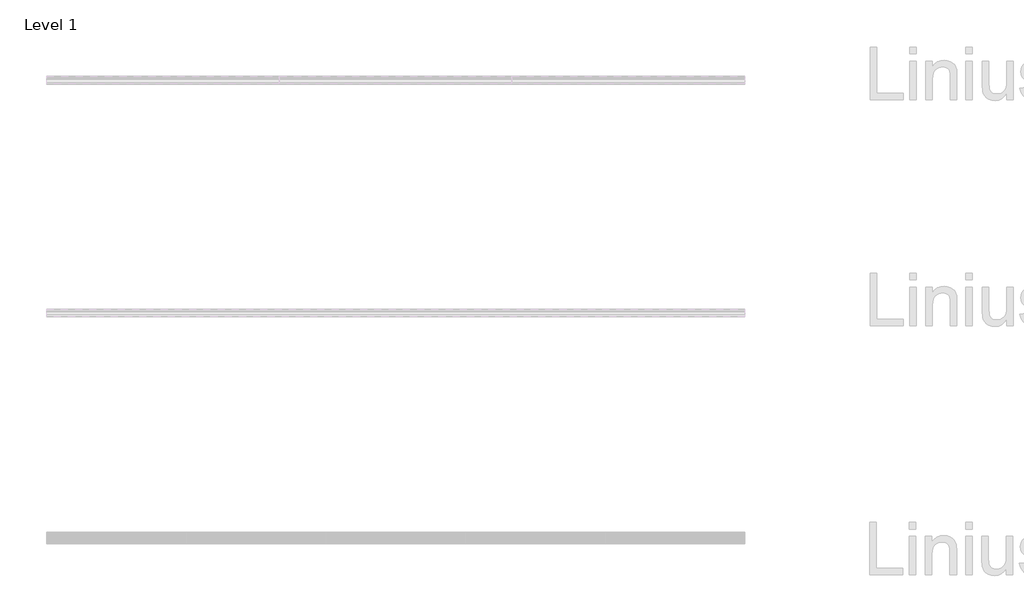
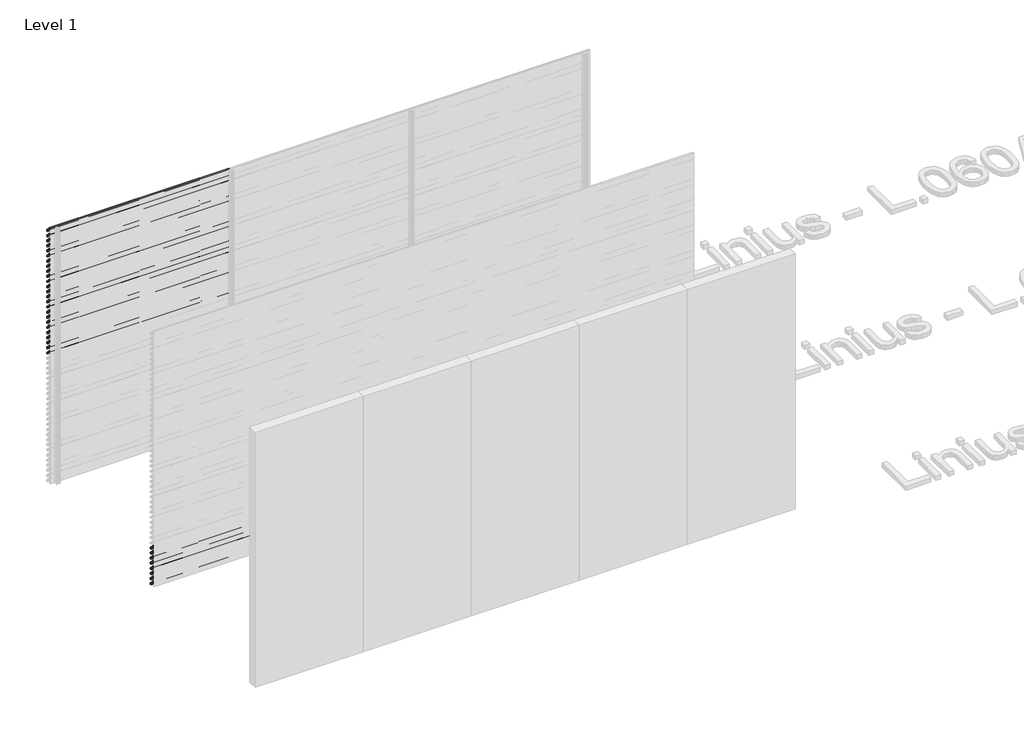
# One storey, part 114 of 153: 33 proxies.
"""IFC4 building model written with IfcOpenShell, lengths in millimetres."""

from ifc_helpers import new_model, si_unit, point, frame, frame_2d, origin, place, context, project, spatial, polyline, circle_curve, trimmed, segment, composite_curve, outline, extrude, element, save

model = new_model("IFC4")

# Units and contexts
model_context = context("Model", 3, world=origin())
ifc_project = project(units=[si_unit("LENGTHUNIT", "METRE", prefix="MILLI")], contexts=[model_context])

# Site, building, storey
site = spatial("IfcSite", under=ifc_project)
building = spatial("IfcBuilding", under=site)
storey = spatial("IfcBuildingStorey", under=building, Name="Level 1", Elevation=0.0)

# Proxies
placement = place(None, origin())
element("IfcBuildingElementProxy", 1, Name="Wall Sweeps", at=placement, inside=storey, context=model_context, shape_type="SweptSolid", body=[
    extrude(outline(composite_curve([segment(polyline([(58985.0540136, 3000.0), (58999.874191, 2998.7034025), (59049.0540136, 2945.0102749), (59049.0540136, 2933.6108187)]), True, "CONTINUOUS"), segment(trimmed(circle_curve(frame_2d((59045.7883652, 2933.897153)), 3.2781774), [point((59049.0540136, 2933.6108187))], [point((59046.4639442, 2930.6893438))], False, "CARTESIAN"), True, "CONTINUOUS"), segment(polyline([(59046.4639442, 2930.6893438), (59034.1895723, 2931.6282758), (58985.0540136, 2985.2730773), (58985.0540136, 3000.0)]), True, "CONTINUOUS")], self_intersect=False), holes=[composite_curve([segment(polyline([(58999.1621773, 2997.2599659), (58986.5540136, 2998.3630372), (58986.5540136, 2985.856213), (59034.8952036, 2933.0786805), (59046.3312542, 2932.2038762)]), True, "CONTINUOUS"), segment(trimmed(circle_curve(frame_2d((59045.7883652, 2933.897153)), 1.7781774), [point((59046.3312542, 2932.2038762))], [point((59047.5540136, 2933.6864389))], True, "CARTESIAN"), True, "CONTINUOUS"), segment(polyline([(59047.5540136, 2933.6864389), (59047.5540136, 2944.4271392), (58999.1621773, 2997.2599659)]), True, "CONTINUOUS")], self_intersect=False)]), frame((44966.6208097, 0.0, 0.0), z_axis=(1.0, 0.0, 0.0), x_axis=(0.0, 1.0, 0.0)), (0.0, 0.0, 1.0), 2000.0000001),
])
element("IfcBuildingElementProxy", 2, Name="Wall Sweeps", at=placement, inside=storey, context=model_context, shape_type="SweptSolid", body=[
    extrude(outline(composite_curve([segment(polyline([(58985.0540136, 2940.0), (58999.874191, 2938.7034025), (59049.0540136, 2885.0102749), (59049.0540136, 2873.6108187)]), True, "CONTINUOUS"), segment(trimmed(circle_curve(frame_2d((59045.7883652, 2873.897153)), 3.2781774), [point((59049.0540136, 2873.6108187))], [point((59046.4639442, 2870.6893438))], False, "CARTESIAN"), True, "CONTINUOUS"), segment(polyline([(59046.4639442, 2870.6893438), (59034.1895723, 2871.6282758), (58985.0540136, 2925.2730773), (58985.0540136, 2940.0)]), True, "CONTINUOUS")], self_intersect=False), holes=[composite_curve([segment(polyline([(58999.1621773, 2937.2599659), (58986.5540136, 2938.3630372), (58986.5540136, 2925.856213), (59034.8952036, 2873.0786805), (59046.3312542, 2872.2038762)]), True, "CONTINUOUS"), segment(trimmed(circle_curve(frame_2d((59045.7883652, 2873.897153)), 1.7781774), [point((59046.3312542, 2872.2038762))], [point((59047.5540136, 2873.6864389))], True, "CARTESIAN"), True, "CONTINUOUS"), segment(polyline([(59047.5540136, 2873.6864389), (59047.5540136, 2884.4271392), (58999.1621773, 2937.2599659)]), True, "CONTINUOUS")], self_intersect=False)]), frame((44966.6208097, 0.0, 0.0), z_axis=(1.0, 0.0, 0.0), x_axis=(0.0, 1.0, 0.0)), (0.0, 0.0, 1.0), 2000.0000001),
])
element("IfcBuildingElementProxy", 3, Name="Wall Sweeps", at=placement, inside=storey, context=model_context, shape_type="SweptSolid", body=[
    extrude(outline(composite_curve([segment(polyline([(58985.0540136, 2880.0), (58999.874191, 2878.7034025), (59049.0540136, 2825.0102749), (59049.0540136, 2813.6108187)]), True, "CONTINUOUS"), segment(trimmed(circle_curve(frame_2d((59045.7883652, 2813.897153)), 3.2781774), [point((59049.0540136, 2813.6108187))], [point((59046.4639442, 2810.6893438))], False, "CARTESIAN"), True, "CONTINUOUS"), segment(polyline([(59046.4639442, 2810.6893438), (59034.1895723, 2811.6282758), (58985.0540136, 2865.2730773), (58985.0540136, 2880.0)]), True, "CONTINUOUS")], self_intersect=False), holes=[composite_curve([segment(polyline([(58999.1621773, 2877.2599659), (58986.5540136, 2878.3630372), (58986.5540136, 2865.856213), (59034.8952036, 2813.0786805), (59046.3312542, 2812.2038762)]), True, "CONTINUOUS"), segment(trimmed(circle_curve(frame_2d((59045.7883652, 2813.897153)), 1.7781774), [point((59046.3312542, 2812.2038762))], [point((59047.5540136, 2813.6864389))], True, "CARTESIAN"), True, "CONTINUOUS"), segment(polyline([(59047.5540136, 2813.6864389), (59047.5540136, 2824.4271392), (58999.1621773, 2877.2599659)]), True, "CONTINUOUS")], self_intersect=False)]), frame((44966.6208097, 0.0, 0.0), z_axis=(1.0, 0.0, 0.0), x_axis=(0.0, 1.0, 0.0)), (0.0, 0.0, 1.0), 2000.0000001),
])
element("IfcBuildingElementProxy", 4, Name="Wall Sweeps", at=placement, inside=storey, context=model_context, shape_type="SweptSolid", body=[
    extrude(outline(composite_curve([segment(polyline([(58985.0540136, 2820.0), (58999.874191, 2818.7034025), (59049.0540136, 2765.0102749), (59049.0540136, 2753.6108187)]), True, "CONTINUOUS"), segment(trimmed(circle_curve(frame_2d((59045.7883652, 2753.897153)), 3.2781774), [point((59049.0540136, 2753.6108187))], [point((59046.4639442, 2750.6893438))], False, "CARTESIAN"), True, "CONTINUOUS"), segment(polyline([(59046.4639442, 2750.6893438), (59034.1895723, 2751.6282758), (58985.0540136, 2805.2730773), (58985.0540136, 2820.0)]), True, "CONTINUOUS")], self_intersect=False), holes=[composite_curve([segment(polyline([(58999.1621773, 2817.2599659), (58986.5540136, 2818.3630372), (58986.5540136, 2805.856213), (59034.8952036, 2753.0786805), (59046.3312542, 2752.2038762)]), True, "CONTINUOUS"), segment(trimmed(circle_curve(frame_2d((59045.7883652, 2753.897153)), 1.7781774), [point((59046.3312542, 2752.2038762))], [point((59047.5540136, 2753.6864389))], True, "CARTESIAN"), True, "CONTINUOUS"), segment(polyline([(59047.5540136, 2753.6864389), (59047.5540136, 2764.4271392), (58999.1621773, 2817.2599659)]), True, "CONTINUOUS")], self_intersect=False)]), frame((44966.6208097, 0.0, 0.0), z_axis=(1.0, 0.0, 0.0), x_axis=(0.0, 1.0, 0.0)), (0.0, 0.0, 1.0), 2000.0000001),
])
element("IfcBuildingElementProxy", 5, Name="Wall Sweeps", at=placement, inside=storey, context=model_context, shape_type="SweptSolid", body=[
    extrude(outline(composite_curve([segment(polyline([(58985.0540136, 2760.0), (58999.874191, 2758.7034025), (59049.0540136, 2705.0102749), (59049.0540136, 2693.6108187)]), True, "CONTINUOUS"), segment(trimmed(circle_curve(frame_2d((59045.7883652, 2693.897153)), 3.2781774), [point((59049.0540136, 2693.6108187))], [point((59046.4639442, 2690.6893438))], False, "CARTESIAN"), True, "CONTINUOUS"), segment(polyline([(59046.4639442, 2690.6893438), (59034.1895723, 2691.6282758), (58985.0540136, 2745.2730773), (58985.0540136, 2760.0)]), True, "CONTINUOUS")], self_intersect=False), holes=[composite_curve([segment(polyline([(58999.1621773, 2757.2599659), (58986.5540136, 2758.3630372), (58986.5540136, 2745.856213), (59034.8952036, 2693.0786805), (59046.3312542, 2692.2038762)]), True, "CONTINUOUS"), segment(trimmed(circle_curve(frame_2d((59045.7883652, 2693.897153)), 1.7781774), [point((59046.3312542, 2692.2038762))], [point((59047.5540136, 2693.6864389))], True, "CARTESIAN"), True, "CONTINUOUS"), segment(polyline([(59047.5540136, 2693.6864389), (59047.5540136, 2704.4271392), (58999.1621773, 2757.2599659)]), True, "CONTINUOUS")], self_intersect=False)]), frame((44966.6208097, 0.0, 0.0), z_axis=(1.0, 0.0, 0.0), x_axis=(0.0, 1.0, 0.0)), (0.0, 0.0, 1.0), 2000.0000001),
])
element("IfcBuildingElementProxy", 6, Name="Wall Sweeps", at=placement, inside=storey, context=model_context, shape_type="SweptSolid", body=[
    extrude(outline(composite_curve([segment(polyline([(58985.0540136, 2700.0), (58999.874191, 2698.7034025), (59049.0540136, 2645.0102749), (59049.0540136, 2633.6108187)]), True, "CONTINUOUS"), segment(trimmed(circle_curve(frame_2d((59045.7883652, 2633.897153)), 3.2781774), [point((59049.0540136, 2633.6108187))], [point((59046.4639442, 2630.6893438))], False, "CARTESIAN"), True, "CONTINUOUS"), segment(polyline([(59046.4639442, 2630.6893438), (59034.1895723, 2631.6282758), (58985.0540136, 2685.2730773), (58985.0540136, 2700.0)]), True, "CONTINUOUS")], self_intersect=False), holes=[composite_curve([segment(polyline([(58999.1621773, 2697.2599659), (58986.5540136, 2698.3630372), (58986.5540136, 2685.856213), (59034.8952036, 2633.0786805), (59046.3312542, 2632.2038762)]), True, "CONTINUOUS"), segment(trimmed(circle_curve(frame_2d((59045.7883652, 2633.897153)), 1.7781774), [point((59046.3312542, 2632.2038762))], [point((59047.5540136, 2633.6864389))], True, "CARTESIAN"), True, "CONTINUOUS"), segment(polyline([(59047.5540136, 2633.6864389), (59047.5540136, 2644.4271392), (58999.1621773, 2697.2599659)]), True, "CONTINUOUS")], self_intersect=False)]), frame((44966.6208097, 0.0, 0.0), z_axis=(1.0, 0.0, 0.0), x_axis=(0.0, 1.0, 0.0)), (0.0, 0.0, 1.0), 2000.0000001),
])
element("IfcBuildingElementProxy", 7, Name="Wall Sweeps", at=placement, inside=storey, context=model_context, shape_type="SweptSolid", body=[
    extrude(outline(composite_curve([segment(polyline([(58985.0540136, 2640.0), (58999.874191, 2638.7034025), (59049.0540136, 2585.0102749), (59049.0540136, 2573.6108187)]), True, "CONTINUOUS"), segment(trimmed(circle_curve(frame_2d((59045.7883652, 2573.897153)), 3.2781774), [point((59049.0540136, 2573.6108187))], [point((59046.4639442, 2570.6893438))], False, "CARTESIAN"), True, "CONTINUOUS"), segment(polyline([(59046.4639442, 2570.6893438), (59034.1895723, 2571.6282758), (58985.0540136, 2625.2730773), (58985.0540136, 2640.0)]), True, "CONTINUOUS")], self_intersect=False), holes=[composite_curve([segment(polyline([(58999.1621773, 2637.2599659), (58986.5540136, 2638.3630372), (58986.5540136, 2625.856213), (59034.8952036, 2573.0786805), (59046.3312542, 2572.2038762)]), True, "CONTINUOUS"), segment(trimmed(circle_curve(frame_2d((59045.7883652, 2573.897153)), 1.7781774), [point((59046.3312542, 2572.2038762))], [point((59047.5540136, 2573.6864389))], True, "CARTESIAN"), True, "CONTINUOUS"), segment(polyline([(59047.5540136, 2573.6864389), (59047.5540136, 2584.4271392), (58999.1621773, 2637.2599659)]), True, "CONTINUOUS")], self_intersect=False)]), frame((44966.6208097, 0.0, 0.0), z_axis=(1.0, 0.0, 0.0), x_axis=(0.0, 1.0, 0.0)), (0.0, 0.0, 1.0), 2000.0000001),
])
element("IfcBuildingElementProxy", 8, Name="Wall Sweeps", at=placement, inside=storey, context=model_context, shape_type="SweptSolid", body=[
    extrude(outline(composite_curve([segment(polyline([(58985.0540136, 2580.0), (58999.874191, 2578.7034025), (59049.0540136, 2525.0102749), (59049.0540136, 2513.6108187)]), True, "CONTINUOUS"), segment(trimmed(circle_curve(frame_2d((59045.7883652, 2513.897153)), 3.2781774), [point((59049.0540136, 2513.6108187))], [point((59046.4639442, 2510.6893438))], False, "CARTESIAN"), True, "CONTINUOUS"), segment(polyline([(59046.4639442, 2510.6893438), (59034.1895723, 2511.6282758), (58985.0540136, 2565.2730773), (58985.0540136, 2580.0)]), True, "CONTINUOUS")], self_intersect=False), holes=[composite_curve([segment(polyline([(58999.1621773, 2577.2599659), (58986.5540136, 2578.3630372), (58986.5540136, 2565.856213), (59034.8952036, 2513.0786805), (59046.3312542, 2512.2038762)]), True, "CONTINUOUS"), segment(trimmed(circle_curve(frame_2d((59045.7883652, 2513.897153)), 1.7781774), [point((59046.3312542, 2512.2038762))], [point((59047.5540136, 2513.6864389))], True, "CARTESIAN"), True, "CONTINUOUS"), segment(polyline([(59047.5540136, 2513.6864389), (59047.5540136, 2524.4271392), (58999.1621773, 2577.2599659)]), True, "CONTINUOUS")], self_intersect=False)]), frame((44966.6208097, 0.0, 0.0), z_axis=(1.0, 0.0, 0.0), x_axis=(0.0, 1.0, 0.0)), (0.0, 0.0, 1.0), 2000.0000001),
])
element("IfcBuildingElementProxy", 9, Name="Wall Sweeps", at=placement, inside=storey, context=model_context, shape_type="SweptSolid", body=[
    extrude(outline(composite_curve([segment(polyline([(58985.0540136, 2520.0), (58999.874191, 2518.7034025), (59049.0540136, 2465.0102749), (59049.0540136, 2453.6108187)]), True, "CONTINUOUS"), segment(trimmed(circle_curve(frame_2d((59045.7883652, 2453.897153)), 3.2781774), [point((59049.0540136, 2453.6108187))], [point((59046.4639442, 2450.6893438))], False, "CARTESIAN"), True, "CONTINUOUS"), segment(polyline([(59046.4639442, 2450.6893438), (59034.1895723, 2451.6282758), (58985.0540136, 2505.2730773), (58985.0540136, 2520.0)]), True, "CONTINUOUS")], self_intersect=False), holes=[composite_curve([segment(polyline([(58999.1621773, 2517.2599659), (58986.5540136, 2518.3630372), (58986.5540136, 2505.856213), (59034.8952036, 2453.0786805), (59046.3312542, 2452.2038762)]), True, "CONTINUOUS"), segment(trimmed(circle_curve(frame_2d((59045.7883652, 2453.897153)), 1.7781774), [point((59046.3312542, 2452.2038762))], [point((59047.5540136, 2453.6864389))], True, "CARTESIAN"), True, "CONTINUOUS"), segment(polyline([(59047.5540136, 2453.6864389), (59047.5540136, 2464.4271392), (58999.1621773, 2517.2599659)]), True, "CONTINUOUS")], self_intersect=False)]), frame((44966.6208097, 0.0, 0.0), z_axis=(1.0, 0.0, 0.0), x_axis=(0.0, 1.0, 0.0)), (0.0, 0.0, 1.0), 2000.0000001),
])
element("IfcBuildingElementProxy", 10, Name="Wall Sweeps", at=placement, inside=storey, context=model_context, shape_type="SweptSolid", body=[
    extrude(outline(composite_curve([segment(polyline([(58985.0540136, 2460.0), (58999.874191, 2458.7034025), (59049.0540136, 2405.0102749), (59049.0540136, 2393.6108187)]), True, "CONTINUOUS"), segment(trimmed(circle_curve(frame_2d((59045.7883652, 2393.897153)), 3.2781774), [point((59049.0540136, 2393.6108187))], [point((59046.4639442, 2390.6893438))], False, "CARTESIAN"), True, "CONTINUOUS"), segment(polyline([(59046.4639442, 2390.6893438), (59034.1895723, 2391.6282758), (58985.0540136, 2445.2730773), (58985.0540136, 2460.0)]), True, "CONTINUOUS")], self_intersect=False), holes=[composite_curve([segment(polyline([(58999.1621773, 2457.2599659), (58986.5540136, 2458.3630372), (58986.5540136, 2445.856213), (59034.8952036, 2393.0786805), (59046.3312542, 2392.2038762)]), True, "CONTINUOUS"), segment(trimmed(circle_curve(frame_2d((59045.7883652, 2393.897153)), 1.7781774), [point((59046.3312542, 2392.2038762))], [point((59047.5540136, 2393.6864389))], True, "CARTESIAN"), True, "CONTINUOUS"), segment(polyline([(59047.5540136, 2393.6864389), (59047.5540136, 2404.4271392), (58999.1621773, 2457.2599659)]), True, "CONTINUOUS")], self_intersect=False)]), frame((44966.6208097, 0.0, 0.0), z_axis=(1.0, 0.0, 0.0), x_axis=(0.0, 1.0, 0.0)), (0.0, 0.0, 1.0), 2000.0000001),
])
element("IfcBuildingElementProxy", 11, Name="Wall Sweeps", at=placement, inside=storey, context=model_context, shape_type="SweptSolid", body=[
    extrude(outline(composite_curve([segment(polyline([(58985.0540136, 2400.0), (58999.874191, 2398.7034025), (59049.0540136, 2345.0102749), (59049.0540136, 2333.6108187)]), True, "CONTINUOUS"), segment(trimmed(circle_curve(frame_2d((59045.7883652, 2333.897153)), 3.2781774), [point((59049.0540136, 2333.6108187))], [point((59046.4639442, 2330.6893438))], False, "CARTESIAN"), True, "CONTINUOUS"), segment(polyline([(59046.4639442, 2330.6893438), (59034.1895723, 2331.6282758), (58985.0540136, 2385.2730773), (58985.0540136, 2400.0)]), True, "CONTINUOUS")], self_intersect=False), holes=[composite_curve([segment(polyline([(58999.1621773, 2397.2599659), (58986.5540136, 2398.3630372), (58986.5540136, 2385.856213), (59034.8952036, 2333.0786805), (59046.3312542, 2332.2038762)]), True, "CONTINUOUS"), segment(trimmed(circle_curve(frame_2d((59045.7883652, 2333.897153)), 1.7781774), [point((59046.3312542, 2332.2038762))], [point((59047.5540136, 2333.6864389))], True, "CARTESIAN"), True, "CONTINUOUS"), segment(polyline([(59047.5540136, 2333.6864389), (59047.5540136, 2344.4271392), (58999.1621773, 2397.2599659)]), True, "CONTINUOUS")], self_intersect=False)]), frame((44966.6208097, 0.0, 0.0), z_axis=(1.0, 0.0, 0.0), x_axis=(0.0, 1.0, 0.0)), (0.0, 0.0, 1.0), 2000.0000001),
])
element("IfcBuildingElementProxy", 12, Name="Wall Sweeps", at=placement, inside=storey, context=model_context, shape_type="SweptSolid", body=[
    extrude(outline(composite_curve([segment(polyline([(58985.0540136, 2340.0), (58999.874191, 2338.7034025), (59049.0540136, 2285.0102749), (59049.0540136, 2273.6108187)]), True, "CONTINUOUS"), segment(trimmed(circle_curve(frame_2d((59045.7883652, 2273.897153)), 3.2781774), [point((59049.0540136, 2273.6108187))], [point((59046.4639442, 2270.6893438))], False, "CARTESIAN"), True, "CONTINUOUS"), segment(polyline([(59046.4639442, 2270.6893438), (59034.1895723, 2271.6282758), (58985.0540136, 2325.2730773), (58985.0540136, 2340.0)]), True, "CONTINUOUS")], self_intersect=False), holes=[composite_curve([segment(polyline([(58999.1621773, 2337.2599659), (58986.5540136, 2338.3630372), (58986.5540136, 2325.856213), (59034.8952036, 2273.0786805), (59046.3312542, 2272.2038762)]), True, "CONTINUOUS"), segment(trimmed(circle_curve(frame_2d((59045.7883652, 2273.897153)), 1.7781774), [point((59046.3312542, 2272.2038762))], [point((59047.5540136, 2273.6864389))], True, "CARTESIAN"), True, "CONTINUOUS"), segment(polyline([(59047.5540136, 2273.6864389), (59047.5540136, 2284.4271392), (58999.1621773, 2337.2599659)]), True, "CONTINUOUS")], self_intersect=False)]), frame((44966.6208097, 0.0, 0.0), z_axis=(1.0, 0.0, 0.0), x_axis=(0.0, 1.0, 0.0)), (0.0, 0.0, 1.0), 2000.0000001),
])
element("IfcBuildingElementProxy", 13, Name="Wall Sweeps", at=placement, inside=storey, context=model_context, shape_type="SweptSolid", body=[
    extrude(outline(composite_curve([segment(polyline([(58985.0540136, 2280.0), (58999.874191, 2278.7034025), (59049.0540136, 2225.0102749), (59049.0540136, 2213.6108187)]), True, "CONTINUOUS"), segment(trimmed(circle_curve(frame_2d((59045.7883652, 2213.897153)), 3.2781774), [point((59049.0540136, 2213.6108187))], [point((59046.4639442, 2210.6893438))], False, "CARTESIAN"), True, "CONTINUOUS"), segment(polyline([(59046.4639442, 2210.6893438), (59034.1895723, 2211.6282758), (58985.0540136, 2265.2730773), (58985.0540136, 2280.0)]), True, "CONTINUOUS")], self_intersect=False), holes=[composite_curve([segment(polyline([(58999.1621773, 2277.2599659), (58986.5540136, 2278.3630372), (58986.5540136, 2265.856213), (59034.8952036, 2213.0786805), (59046.3312542, 2212.2038762)]), True, "CONTINUOUS"), segment(trimmed(circle_curve(frame_2d((59045.7883652, 2213.897153)), 1.7781774), [point((59046.3312542, 2212.2038762))], [point((59047.5540136, 2213.6864389))], True, "CARTESIAN"), True, "CONTINUOUS"), segment(polyline([(59047.5540136, 2213.6864389), (59047.5540136, 2224.4271392), (58999.1621773, 2277.2599659)]), True, "CONTINUOUS")], self_intersect=False)]), frame((44966.6208097, 0.0, 0.0), z_axis=(1.0, 0.0, 0.0), x_axis=(0.0, 1.0, 0.0)), (0.0, 0.0, 1.0), 2000.0000001),
])
element("IfcBuildingElementProxy", 14, Name="Wall Sweeps", at=placement, inside=storey, context=model_context, shape_type="SweptSolid", body=[
    extrude(outline(composite_curve([segment(polyline([(58985.0540136, 2220.0), (58999.874191, 2218.7034025), (59049.0540136, 2165.0102749), (59049.0540136, 2153.6108187)]), True, "CONTINUOUS"), segment(trimmed(circle_curve(frame_2d((59045.7883652, 2153.897153)), 3.2781774), [point((59049.0540136, 2153.6108187))], [point((59046.4639442, 2150.6893438))], False, "CARTESIAN"), True, "CONTINUOUS"), segment(polyline([(59046.4639442, 2150.6893438), (59034.1895723, 2151.6282758), (58985.0540136, 2205.2730773), (58985.0540136, 2220.0)]), True, "CONTINUOUS")], self_intersect=False), holes=[composite_curve([segment(polyline([(58999.1621773, 2217.2599659), (58986.5540136, 2218.3630372), (58986.5540136, 2205.856213), (59034.8952036, 2153.0786805), (59046.3312542, 2152.2038762)]), True, "CONTINUOUS"), segment(trimmed(circle_curve(frame_2d((59045.7883652, 2153.897153)), 1.7781774), [point((59046.3312542, 2152.2038762))], [point((59047.5540136, 2153.6864389))], True, "CARTESIAN"), True, "CONTINUOUS"), segment(polyline([(59047.5540136, 2153.6864389), (59047.5540136, 2164.4271392), (58999.1621773, 2217.2599659)]), True, "CONTINUOUS")], self_intersect=False)]), frame((44966.6208097, 0.0, 0.0), z_axis=(1.0, 0.0, 0.0), x_axis=(0.0, 1.0, 0.0)), (0.0, 0.0, 1.0), 2000.0000001),
])
element("IfcBuildingElementProxy", 15, Name="Wall Sweeps", at=placement, inside=storey, context=model_context, shape_type="SweptSolid", body=[
    extrude(outline(composite_curve([segment(polyline([(58985.0540136, 2160.0), (58999.874191, 2158.7034025), (59049.0540136, 2105.0102749), (59049.0540136, 2093.6108187)]), True, "CONTINUOUS"), segment(trimmed(circle_curve(frame_2d((59045.7883652, 2093.897153)), 3.2781774), [point((59049.0540136, 2093.6108187))], [point((59046.4639442, 2090.6893438))], False, "CARTESIAN"), True, "CONTINUOUS"), segment(polyline([(59046.4639442, 2090.6893438), (59034.1895723, 2091.6282758), (58985.0540136, 2145.2730773), (58985.0540136, 2160.0)]), True, "CONTINUOUS")], self_intersect=False), holes=[composite_curve([segment(polyline([(58999.1621773, 2157.2599659), (58986.5540136, 2158.3630372), (58986.5540136, 2145.856213), (59034.8952036, 2093.0786805), (59046.3312542, 2092.2038762)]), True, "CONTINUOUS"), segment(trimmed(circle_curve(frame_2d((59045.7883652, 2093.897153)), 1.7781774), [point((59046.3312542, 2092.2038762))], [point((59047.5540136, 2093.6864389))], True, "CARTESIAN"), True, "CONTINUOUS"), segment(polyline([(59047.5540136, 2093.6864389), (59047.5540136, 2104.4271392), (58999.1621773, 2157.2599659)]), True, "CONTINUOUS")], self_intersect=False)]), frame((44966.6208097, 0.0, 0.0), z_axis=(1.0, 0.0, 0.0), x_axis=(0.0, 1.0, 0.0)), (0.0, 0.0, 1.0), 2000.0000001),
])
element("IfcBuildingElementProxy", 16, Name="Wall Sweeps", at=placement, inside=storey, context=model_context, shape_type="SweptSolid", body=[
    extrude(outline(composite_curve([segment(polyline([(58985.0540136, 2100.0), (58999.874191, 2098.7034025), (59049.0540136, 2045.0102749), (59049.0540136, 2033.6108187)]), True, "CONTINUOUS"), segment(trimmed(circle_curve(frame_2d((59045.7883652, 2033.897153)), 3.2781774), [point((59049.0540136, 2033.6108187))], [point((59046.4639442, 2030.6893438))], False, "CARTESIAN"), True, "CONTINUOUS"), segment(polyline([(59046.4639442, 2030.6893438), (59034.1895723, 2031.6282758), (58985.0540136, 2085.2730773), (58985.0540136, 2100.0)]), True, "CONTINUOUS")], self_intersect=False), holes=[composite_curve([segment(polyline([(58999.1621773, 2097.2599659), (58986.5540136, 2098.3630372), (58986.5540136, 2085.856213), (59034.8952036, 2033.0786805), (59046.3312542, 2032.2038762)]), True, "CONTINUOUS"), segment(trimmed(circle_curve(frame_2d((59045.7883652, 2033.897153)), 1.7781774), [point((59046.3312542, 2032.2038762))], [point((59047.5540136, 2033.6864389))], True, "CARTESIAN"), True, "CONTINUOUS"), segment(polyline([(59047.5540136, 2033.6864389), (59047.5540136, 2044.4271392), (58999.1621773, 2097.2599659)]), True, "CONTINUOUS")], self_intersect=False)]), frame((44966.6208097, 0.0, 0.0), z_axis=(1.0, 0.0, 0.0), x_axis=(0.0, 1.0, 0.0)), (0.0, 0.0, 1.0), 2000.0000001),
])
element("IfcBuildingElementProxy", 17, Name="Wall Sweeps", at=placement, inside=storey, context=model_context, shape_type="SweptSolid", body=[
    extrude(outline(composite_curve([segment(polyline([(58985.0540136, 2040.0), (58999.874191, 2038.7034025), (59049.0540136, 1985.0102749), (59049.0540136, 1973.6108187)]), True, "CONTINUOUS"), segment(trimmed(circle_curve(frame_2d((59045.7883652, 1973.897153)), 3.2781774), [point((59049.0540136, 1973.6108187))], [point((59046.4639442, 1970.6893438))], False, "CARTESIAN"), True, "CONTINUOUS"), segment(polyline([(59046.4639442, 1970.6893438), (59034.1895723, 1971.6282758), (58985.0540136, 2025.2730773), (58985.0540136, 2040.0)]), True, "CONTINUOUS")], self_intersect=False), holes=[composite_curve([segment(polyline([(58999.1621773, 2037.2599659), (58986.5540136, 2038.3630372), (58986.5540136, 2025.856213), (59034.8952036, 1973.0786805), (59046.3312542, 1972.2038762)]), True, "CONTINUOUS"), segment(trimmed(circle_curve(frame_2d((59045.7883652, 1973.897153)), 1.7781774), [point((59046.3312542, 1972.2038762))], [point((59047.5540136, 1973.6864389))], True, "CARTESIAN"), True, "CONTINUOUS"), segment(polyline([(59047.5540136, 1973.6864389), (59047.5540136, 1984.4271392), (58999.1621773, 2037.2599659)]), True, "CONTINUOUS")], self_intersect=False)]), frame((44966.6208097, 0.0, 0.0), z_axis=(1.0, 0.0, 0.0), x_axis=(0.0, 1.0, 0.0)), (0.0, 0.0, 1.0), 2000.0000001),
])
element("IfcBuildingElementProxy", 18, Name="Wall Sweeps", at=placement, inside=storey, context=model_context, shape_type="SweptSolid", body=[
    extrude(outline(composite_curve([segment(polyline([(58985.0540136, 1980.0), (58999.874191, 1978.7034025), (59049.0540136, 1925.0102749), (59049.0540136, 1913.6108187)]), True, "CONTINUOUS"), segment(trimmed(circle_curve(frame_2d((59045.7883652, 1913.897153)), 3.2781774), [point((59049.0540136, 1913.6108187))], [point((59046.4639442, 1910.6893438))], False, "CARTESIAN"), True, "CONTINUOUS"), segment(polyline([(59046.4639442, 1910.6893438), (59034.1895723, 1911.6282758), (58985.0540136, 1965.2730773), (58985.0540136, 1980.0)]), True, "CONTINUOUS")], self_intersect=False), holes=[composite_curve([segment(polyline([(58999.1621773, 1977.2599659), (58986.5540136, 1978.3630372), (58986.5540136, 1965.856213), (59034.8952036, 1913.0786805), (59046.3312542, 1912.2038762)]), True, "CONTINUOUS"), segment(trimmed(circle_curve(frame_2d((59045.7883652, 1913.897153)), 1.7781774), [point((59046.3312542, 1912.2038762))], [point((59047.5540136, 1913.6864389))], True, "CARTESIAN"), True, "CONTINUOUS"), segment(polyline([(59047.5540136, 1913.6864389), (59047.5540136, 1924.4271392), (58999.1621773, 1977.2599659)]), True, "CONTINUOUS")], self_intersect=False)]), frame((44966.6208097, 0.0, 0.0), z_axis=(1.0, 0.0, 0.0), x_axis=(0.0, 1.0, 0.0)), (0.0, 0.0, 1.0), 2000.0000001),
])
element("IfcBuildingElementProxy", 19, Name="Wall Sweeps", at=placement, inside=storey, context=model_context, shape_type="SweptSolid", body=[
    extrude(outline(composite_curve([segment(polyline([(58985.0540136, 1920.0), (58999.874191, 1918.7034025), (59049.0540136, 1865.0102749), (59049.0540136, 1853.6108187)]), True, "CONTINUOUS"), segment(trimmed(circle_curve(frame_2d((59045.7883652, 1853.897153)), 3.2781774), [point((59049.0540136, 1853.6108187))], [point((59046.4639442, 1850.6893438))], False, "CARTESIAN"), True, "CONTINUOUS"), segment(polyline([(59046.4639442, 1850.6893438), (59034.1895723, 1851.6282758), (58985.0540136, 1905.2730773), (58985.0540136, 1920.0)]), True, "CONTINUOUS")], self_intersect=False), holes=[composite_curve([segment(polyline([(58999.1621773, 1917.2599659), (58986.5540136, 1918.3630372), (58986.5540136, 1905.856213), (59034.8952036, 1853.0786805), (59046.3312542, 1852.2038762)]), True, "CONTINUOUS"), segment(trimmed(circle_curve(frame_2d((59045.7883652, 1853.897153)), 1.7781774), [point((59046.3312542, 1852.2038762))], [point((59047.5540136, 1853.6864389))], True, "CARTESIAN"), True, "CONTINUOUS"), segment(polyline([(59047.5540136, 1853.6864389), (59047.5540136, 1864.4271392), (58999.1621773, 1917.2599659)]), True, "CONTINUOUS")], self_intersect=False)]), frame((44966.6208097, 0.0, 0.0), z_axis=(1.0, 0.0, 0.0), x_axis=(0.0, 1.0, 0.0)), (0.0, 0.0, 1.0), 2000.0000001),
])
element("IfcBuildingElementProxy", 20, Name="Wall Sweeps", at=placement, inside=storey, context=model_context, shape_type="SweptSolid", body=[
    extrude(outline(composite_curve([segment(polyline([(58985.0540136, 1860.0), (58999.874191, 1858.7034025), (59049.0540136, 1805.0102749), (59049.0540136, 1793.6108187)]), True, "CONTINUOUS"), segment(trimmed(circle_curve(frame_2d((59045.7883652, 1793.897153)), 3.2781774), [point((59049.0540136, 1793.6108187))], [point((59046.4639442, 1790.6893438))], False, "CARTESIAN"), True, "CONTINUOUS"), segment(polyline([(59046.4639442, 1790.6893438), (59034.1895723, 1791.6282758), (58985.0540136, 1845.2730773), (58985.0540136, 1860.0)]), True, "CONTINUOUS")], self_intersect=False), holes=[composite_curve([segment(polyline([(58999.1621773, 1857.2599659), (58986.5540136, 1858.3630372), (58986.5540136, 1845.856213), (59034.8952036, 1793.0786805), (59046.3312542, 1792.2038762)]), True, "CONTINUOUS"), segment(trimmed(circle_curve(frame_2d((59045.7883652, 1793.897153)), 1.7781774), [point((59046.3312542, 1792.2038762))], [point((59047.5540136, 1793.6864389))], True, "CARTESIAN"), True, "CONTINUOUS"), segment(polyline([(59047.5540136, 1793.6864389), (59047.5540136, 1804.4271392), (58999.1621773, 1857.2599659)]), True, "CONTINUOUS")], self_intersect=False)]), frame((44966.6208097, 0.0, 0.0), z_axis=(1.0, 0.0, 0.0), x_axis=(0.0, 1.0, 0.0)), (0.0, 0.0, 1.0), 2000.0000001),
])
element("IfcBuildingElementProxy", 21, Name="Wall Sweeps", at=placement, inside=storey, context=model_context, shape_type="SweptSolid", body=[
    extrude(outline(composite_curve([segment(polyline([(58985.0540136, 1800.0), (58999.874191, 1798.7034025), (59049.0540136, 1745.0102749), (59049.0540136, 1733.6108187)]), True, "CONTINUOUS"), segment(trimmed(circle_curve(frame_2d((59045.7883652, 1733.897153)), 3.2781774), [point((59049.0540136, 1733.6108187))], [point((59046.4639442, 1730.6893438))], False, "CARTESIAN"), True, "CONTINUOUS"), segment(polyline([(59046.4639442, 1730.6893438), (59034.1895723, 1731.6282758), (58985.0540136, 1785.2730773), (58985.0540136, 1800.0)]), True, "CONTINUOUS")], self_intersect=False), holes=[composite_curve([segment(polyline([(58999.1621773, 1797.2599659), (58986.5540136, 1798.3630372), (58986.5540136, 1785.856213), (59034.8952036, 1733.0786805), (59046.3312542, 1732.2038762)]), True, "CONTINUOUS"), segment(trimmed(circle_curve(frame_2d((59045.7883652, 1733.897153)), 1.7781774), [point((59046.3312542, 1732.2038762))], [point((59047.5540136, 1733.6864389))], True, "CARTESIAN"), True, "CONTINUOUS"), segment(polyline([(59047.5540136, 1733.6864389), (59047.5540136, 1744.4271392), (58999.1621773, 1797.2599659)]), True, "CONTINUOUS")], self_intersect=False)]), frame((44966.6208097, 0.0, 0.0), z_axis=(1.0, 0.0, 0.0), x_axis=(0.0, 1.0, 0.0)), (0.0, 0.0, 1.0), 2000.0000001),
])
element("IfcBuildingElementProxy", 22, Name="Wall Sweeps", at=placement, inside=storey, context=model_context, shape_type="SweptSolid", body=[
    extrude(outline(composite_curve([segment(polyline([(58985.0540136, 1740.0), (58999.874191, 1738.7034025), (59049.0540136, 1685.0102749), (59049.0540136, 1673.6108187)]), True, "CONTINUOUS"), segment(trimmed(circle_curve(frame_2d((59045.7883652, 1673.897153)), 3.2781774), [point((59049.0540136, 1673.6108187))], [point((59046.4639442, 1670.6893438))], False, "CARTESIAN"), True, "CONTINUOUS"), segment(polyline([(59046.4639442, 1670.6893438), (59034.1895723, 1671.6282758), (58985.0540136, 1725.2730773), (58985.0540136, 1740.0)]), True, "CONTINUOUS")], self_intersect=False), holes=[composite_curve([segment(polyline([(58999.1621773, 1737.2599659), (58986.5540136, 1738.3630372), (58986.5540136, 1725.856213), (59034.8952036, 1673.0786805), (59046.3312542, 1672.2038762)]), True, "CONTINUOUS"), segment(trimmed(circle_curve(frame_2d((59045.7883652, 1673.897153)), 1.7781774), [point((59046.3312542, 1672.2038762))], [point((59047.5540136, 1673.6864389))], True, "CARTESIAN"), True, "CONTINUOUS"), segment(polyline([(59047.5540136, 1673.6864389), (59047.5540136, 1684.4271392), (58999.1621773, 1737.2599659)]), True, "CONTINUOUS")], self_intersect=False)]), frame((44966.6208097, 0.0, 0.0), z_axis=(1.0, 0.0, 0.0), x_axis=(0.0, 1.0, 0.0)), (0.0, 0.0, 1.0), 2000.0000001),
])
element("IfcBuildingElementProxy", 23, Name="Wall Sweeps", at=placement, inside=storey, context=model_context, shape_type="SweptSolid", body=[
    extrude(outline(composite_curve([segment(polyline([(58985.0540136, 1680.0), (58999.874191, 1678.7034025), (59049.0540136, 1625.0102749), (59049.0540136, 1613.6108187)]), True, "CONTINUOUS"), segment(trimmed(circle_curve(frame_2d((59045.7883652, 1613.897153)), 3.2781774), [point((59049.0540136, 1613.6108187))], [point((59046.4639442, 1610.6893438))], False, "CARTESIAN"), True, "CONTINUOUS"), segment(polyline([(59046.4639442, 1610.6893438), (59034.1895723, 1611.6282758), (58985.0540136, 1665.2730773), (58985.0540136, 1680.0)]), True, "CONTINUOUS")], self_intersect=False), holes=[composite_curve([segment(polyline([(58999.1621773, 1677.2599659), (58986.5540136, 1678.3630372), (58986.5540136, 1665.856213), (59034.8952036, 1613.0786805), (59046.3312542, 1612.2038762)]), True, "CONTINUOUS"), segment(trimmed(circle_curve(frame_2d((59045.7883652, 1613.897153)), 1.7781774), [point((59046.3312542, 1612.2038762))], [point((59047.5540136, 1613.6864389))], True, "CARTESIAN"), True, "CONTINUOUS"), segment(polyline([(59047.5540136, 1613.6864389), (59047.5540136, 1624.4271392), (58999.1621773, 1677.2599659)]), True, "CONTINUOUS")], self_intersect=False)]), frame((44966.6208097, 0.0, 0.0), z_axis=(1.0, 0.0, 0.0), x_axis=(0.0, 1.0, 0.0)), (0.0, 0.0, 1.0), 2000.0000001),
])
element("IfcBuildingElementProxy", 24, Name="Wall Sweeps", at=placement, inside=storey, context=model_context, shape_type="SweptSolid", body=[
    extrude(outline(composite_curve([segment(polyline([(58985.0540136, 1620.0), (58999.874191, 1618.7034025), (59049.0540136, 1565.0102749), (59049.0540136, 1553.6108187)]), True, "CONTINUOUS"), segment(trimmed(circle_curve(frame_2d((59045.7883652, 1553.897153)), 3.2781774), [point((59049.0540136, 1553.6108187))], [point((59046.4639442, 1550.6893438))], False, "CARTESIAN"), True, "CONTINUOUS"), segment(polyline([(59046.4639442, 1550.6893438), (59034.1895723, 1551.6282758), (58985.0540136, 1605.2730773), (58985.0540136, 1620.0)]), True, "CONTINUOUS")], self_intersect=False), holes=[composite_curve([segment(polyline([(58999.1621773, 1617.2599659), (58986.5540136, 1618.3630372), (58986.5540136, 1605.856213), (59034.8952036, 1553.0786805), (59046.3312542, 1552.2038762)]), True, "CONTINUOUS"), segment(trimmed(circle_curve(frame_2d((59045.7883652, 1553.897153)), 1.7781774), [point((59046.3312542, 1552.2038762))], [point((59047.5540136, 1553.6864389))], True, "CARTESIAN"), True, "CONTINUOUS"), segment(polyline([(59047.5540136, 1553.6864389), (59047.5540136, 1564.4271392), (58999.1621773, 1617.2599659)]), True, "CONTINUOUS")], self_intersect=False)]), frame((44966.6208097, 0.0, 0.0), z_axis=(1.0, 0.0, 0.0), x_axis=(0.0, 1.0, 0.0)), (0.0, 0.0, 1.0), 2000.0000001),
])
element("IfcBuildingElementProxy", 25, Name="Wall Sweeps", at=placement, inside=storey, context=model_context, shape_type="SweptSolid", body=[
    extrude(outline(composite_curve([segment(polyline([(58985.0540136, 1560.0), (58999.874191, 1558.7034025), (59049.0540136, 1505.0102749), (59049.0540136, 1493.6108187)]), True, "CONTINUOUS"), segment(trimmed(circle_curve(frame_2d((59045.7883652, 1493.897153)), 3.2781774), [point((59049.0540136, 1493.6108187))], [point((59046.4639442, 1490.6893438))], False, "CARTESIAN"), True, "CONTINUOUS"), segment(polyline([(59046.4639442, 1490.6893438), (59034.1895723, 1491.6282758), (58985.0540136, 1545.2730773), (58985.0540136, 1560.0)]), True, "CONTINUOUS")], self_intersect=False), holes=[composite_curve([segment(polyline([(58999.1621773, 1557.2599659), (58986.5540136, 1558.3630372), (58986.5540136, 1545.856213), (59034.8952036, 1493.0786805), (59046.3312542, 1492.2038762)]), True, "CONTINUOUS"), segment(trimmed(circle_curve(frame_2d((59045.7883652, 1493.897153)), 1.7781774), [point((59046.3312542, 1492.2038762))], [point((59047.5540136, 1493.6864389))], True, "CARTESIAN"), True, "CONTINUOUS"), segment(polyline([(59047.5540136, 1493.6864389), (59047.5540136, 1504.4271392), (58999.1621773, 1557.2599659)]), True, "CONTINUOUS")], self_intersect=False)]), frame((44966.6208097, 0.0, 0.0), z_axis=(1.0, 0.0, 0.0), x_axis=(0.0, 1.0, 0.0)), (0.0, 0.0, 1.0), 2000.0000001),
])
element("IfcBuildingElementProxy", 26, Name="Wall Sweeps", at=placement, inside=storey, context=model_context, shape_type="SweptSolid", body=[
    extrude(outline(composite_curve([segment(polyline([(56985.0540136, 480.0), (56999.874191, 478.7034025), (57049.0540136, 425.0102749), (57049.0540136, 413.6108187)]), True, "CONTINUOUS"), segment(trimmed(circle_curve(frame_2d((57045.7883652, 413.897153)), 3.2781774), [point((57049.0540136, 413.6108187))], [point((57046.4639442, 410.6893438))], False, "CARTESIAN"), True, "CONTINUOUS"), segment(polyline([(57046.4639442, 410.6893438), (57034.1895723, 411.6282758), (56985.0540136, 465.2730773), (56985.0540136, 480.0)]), True, "CONTINUOUS")], self_intersect=False), holes=[composite_curve([segment(polyline([(56999.1621773, 477.2599659), (56986.5540136, 478.3630372), (56986.5540136, 465.856213), (57034.8952036, 413.0786805), (57046.3312542, 412.2038762)]), True, "CONTINUOUS"), segment(trimmed(circle_curve(frame_2d((57045.7883652, 413.897153)), 1.7781774), [point((57046.3312542, 412.2038762))], [point((57047.5540136, 413.6864389))], True, "CARTESIAN"), True, "CONTINUOUS"), segment(polyline([(57047.5540136, 413.6864389), (57047.5540136, 424.4271392), (56999.1621773, 477.2599659)]), True, "CONTINUOUS")], self_intersect=False)]), frame((44966.6208097, 0.0, 0.0), z_axis=(1.0, 0.0, 0.0), x_axis=(0.0, 1.0, 0.0)), (0.0, 0.0, 1.0), 6000.0),
])
element("IfcBuildingElementProxy", 27, Name="Wall Sweeps", at=placement, inside=storey, context=model_context, shape_type="SweptSolid", body=[
    extrude(outline(composite_curve([segment(polyline([(56985.0540136, 420.0), (56999.874191, 418.7034025), (57049.0540136, 365.0102749), (57049.0540136, 353.6108187)]), True, "CONTINUOUS"), segment(trimmed(circle_curve(frame_2d((57045.7883652, 353.897153)), 3.2781774), [point((57049.0540136, 353.6108187))], [point((57046.4639442, 350.6893438))], False, "CARTESIAN"), True, "CONTINUOUS"), segment(polyline([(57046.4639442, 350.6893438), (57034.1895723, 351.6282758), (56985.0540136, 405.2730773), (56985.0540136, 420.0)]), True, "CONTINUOUS")], self_intersect=False), holes=[composite_curve([segment(polyline([(56999.1621773, 417.2599659), (56986.5540136, 418.3630372), (56986.5540136, 405.856213), (57034.8952036, 353.0786805), (57046.3312542, 352.2038762)]), True, "CONTINUOUS"), segment(trimmed(circle_curve(frame_2d((57045.7883652, 353.897153)), 1.7781774), [point((57046.3312542, 352.2038762))], [point((57047.5540136, 353.6864389))], True, "CARTESIAN"), True, "CONTINUOUS"), segment(polyline([(57047.5540136, 353.6864389), (57047.5540136, 364.4271392), (56999.1621773, 417.2599659)]), True, "CONTINUOUS")], self_intersect=False)]), frame((44966.6208097, 0.0, 0.0), z_axis=(1.0, 0.0, 0.0), x_axis=(0.0, 1.0, 0.0)), (0.0, 0.0, 1.0), 6000.0),
])
element("IfcBuildingElementProxy", 28, Name="Wall Sweeps", at=placement, inside=storey, context=model_context, shape_type="SweptSolid", body=[
    extrude(outline(composite_curve([segment(polyline([(56985.0540136, 360.0), (56999.874191, 358.7034025), (57049.0540136, 305.0102749), (57049.0540136, 293.6108187)]), True, "CONTINUOUS"), segment(trimmed(circle_curve(frame_2d((57045.7883652, 293.897153)), 3.2781774), [point((57049.0540136, 293.6108187))], [point((57046.4639442, 290.6893438))], False, "CARTESIAN"), True, "CONTINUOUS"), segment(polyline([(57046.4639442, 290.6893438), (57034.1895723, 291.6282758), (56985.0540136, 345.2730773), (56985.0540136, 360.0)]), True, "CONTINUOUS")], self_intersect=False), holes=[composite_curve([segment(polyline([(56999.1621773, 357.2599659), (56986.5540136, 358.3630372), (56986.5540136, 345.856213), (57034.8952036, 293.0786805), (57046.3312542, 292.2038762)]), True, "CONTINUOUS"), segment(trimmed(circle_curve(frame_2d((57045.7883652, 293.897153)), 1.7781774), [point((57046.3312542, 292.2038762))], [point((57047.5540136, 293.6864389))], True, "CARTESIAN"), True, "CONTINUOUS"), segment(polyline([(57047.5540136, 293.6864389), (57047.5540136, 304.4271392), (56999.1621773, 357.2599659)]), True, "CONTINUOUS")], self_intersect=False)]), frame((44966.6208097, 0.0, 0.0), z_axis=(1.0, 0.0, 0.0), x_axis=(0.0, 1.0, 0.0)), (0.0, 0.0, 1.0), 6000.0),
])
element("IfcBuildingElementProxy", 29, Name="Wall Sweeps", at=placement, inside=storey, context=model_context, shape_type="SweptSolid", body=[
    extrude(outline(composite_curve([segment(polyline([(56985.0540136, 300.0), (56999.874191, 298.7034025), (57049.0540136, 245.0102749), (57049.0540136, 233.6108187)]), True, "CONTINUOUS"), segment(trimmed(circle_curve(frame_2d((57045.7883652, 233.897153)), 3.2781774), [point((57049.0540136, 233.6108187))], [point((57046.4639442, 230.6893438))], False, "CARTESIAN"), True, "CONTINUOUS"), segment(polyline([(57046.4639442, 230.6893438), (57034.1895723, 231.6282758), (56985.0540136, 285.2730773), (56985.0540136, 300.0)]), True, "CONTINUOUS")], self_intersect=False), holes=[composite_curve([segment(polyline([(56999.1621773, 297.2599659), (56986.5540136, 298.3630372), (56986.5540136, 285.856213), (57034.8952036, 233.0786805), (57046.3312542, 232.2038762)]), True, "CONTINUOUS"), segment(trimmed(circle_curve(frame_2d((57045.7883652, 233.897153)), 1.7781774), [point((57046.3312542, 232.2038762))], [point((57047.5540136, 233.6864389))], True, "CARTESIAN"), True, "CONTINUOUS"), segment(polyline([(57047.5540136, 233.6864389), (57047.5540136, 244.4271392), (56999.1621773, 297.2599659)]), True, "CONTINUOUS")], self_intersect=False)]), frame((44966.6208097, 0.0, 0.0), z_axis=(1.0, 0.0, 0.0), x_axis=(0.0, 1.0, 0.0)), (0.0, 0.0, 1.0), 6000.0),
])
element("IfcBuildingElementProxy", 30, Name="Wall Sweeps", at=placement, inside=storey, context=model_context, shape_type="SweptSolid", body=[
    extrude(outline(composite_curve([segment(polyline([(56985.0540136, 240.0), (56999.874191, 238.7034025), (57049.0540136, 185.0102749), (57049.0540136, 173.6108187)]), True, "CONTINUOUS"), segment(trimmed(circle_curve(frame_2d((57045.7883652, 173.897153)), 3.2781774), [point((57049.0540136, 173.6108187))], [point((57046.4639442, 170.6893438))], False, "CARTESIAN"), True, "CONTINUOUS"), segment(polyline([(57046.4639442, 170.6893438), (57034.1895723, 171.6282758), (56985.0540136, 225.2730773), (56985.0540136, 240.0)]), True, "CONTINUOUS")], self_intersect=False), holes=[composite_curve([segment(polyline([(56999.1621773, 237.2599659), (56986.5540136, 238.3630372), (56986.5540136, 225.856213), (57034.8952036, 173.0786805), (57046.3312542, 172.2038762)]), True, "CONTINUOUS"), segment(trimmed(circle_curve(frame_2d((57045.7883652, 173.897153)), 1.7781774), [point((57046.3312542, 172.2038762))], [point((57047.5540136, 173.6864389))], True, "CARTESIAN"), True, "CONTINUOUS"), segment(polyline([(57047.5540136, 173.6864389), (57047.5540136, 184.4271392), (56999.1621773, 237.2599659)]), True, "CONTINUOUS")], self_intersect=False)]), frame((44966.6208097, 0.0, 0.0), z_axis=(1.0, 0.0, 0.0), x_axis=(0.0, 1.0, 0.0)), (0.0, 0.0, 1.0), 6000.0),
])
element("IfcBuildingElementProxy", 31, Name="Wall Sweeps", at=placement, inside=storey, context=model_context, shape_type="SweptSolid", body=[
    extrude(outline(composite_curve([segment(polyline([(56985.0540136, 180.0), (56999.874191, 178.7034025), (57049.0540136, 125.0102749), (57049.0540136, 113.6108187)]), True, "CONTINUOUS"), segment(trimmed(circle_curve(frame_2d((57045.7883652, 113.897153)), 3.2781774), [point((57049.0540136, 113.6108187))], [point((57046.4639442, 110.6893438))], False, "CARTESIAN"), True, "CONTINUOUS"), segment(polyline([(57046.4639442, 110.6893438), (57034.1895723, 111.6282758), (56985.0540136, 165.2730773), (56985.0540136, 180.0)]), True, "CONTINUOUS")], self_intersect=False), holes=[composite_curve([segment(polyline([(56999.1621773, 177.2599659), (56986.5540136, 178.3630372), (56986.5540136, 165.856213), (57034.8952036, 113.0786805), (57046.3312542, 112.2038762)]), True, "CONTINUOUS"), segment(trimmed(circle_curve(frame_2d((57045.7883652, 113.897153)), 1.7781774), [point((57046.3312542, 112.2038762))], [point((57047.5540136, 113.6864389))], True, "CARTESIAN"), True, "CONTINUOUS"), segment(polyline([(57047.5540136, 113.6864389), (57047.5540136, 124.4271392), (56999.1621773, 177.2599659)]), True, "CONTINUOUS")], self_intersect=False)]), frame((44966.6208097, 0.0, 0.0), z_axis=(1.0, 0.0, 0.0), x_axis=(0.0, 1.0, 0.0)), (0.0, 0.0, 1.0), 6000.0),
])
element("IfcBuildingElementProxy", 32, Name="Wall Sweeps", at=placement, inside=storey, context=model_context, shape_type="SweptSolid", body=[
    extrude(outline(composite_curve([segment(polyline([(56985.0540136, 120.0), (56999.874191, 118.7034025), (57049.0540136, 65.0102749), (57049.0540136, 53.6108187)]), True, "CONTINUOUS"), segment(trimmed(circle_curve(frame_2d((57045.7883652, 53.897153)), 3.2781774), [point((57049.0540136, 53.6108187))], [point((57046.4639442, 50.6893438))], False, "CARTESIAN"), True, "CONTINUOUS"), segment(polyline([(57046.4639442, 50.6893438), (57034.1895723, 51.6282758), (56985.0540136, 105.2730773), (56985.0540136, 120.0)]), True, "CONTINUOUS")], self_intersect=False), holes=[composite_curve([segment(polyline([(56999.1621773, 117.2599659), (56986.5540136, 118.3630372), (56986.5540136, 105.856213), (57034.8952036, 53.0786805), (57046.3312542, 52.2038762)]), True, "CONTINUOUS"), segment(trimmed(circle_curve(frame_2d((57045.7883652, 53.897153)), 1.7781774), [point((57046.3312542, 52.2038762))], [point((57047.5540136, 53.6864389))], True, "CARTESIAN"), True, "CONTINUOUS"), segment(polyline([(57047.5540136, 53.6864389), (57047.5540136, 64.4271392), (56999.1621773, 117.2599659)]), True, "CONTINUOUS")], self_intersect=False)]), frame((44966.6208097, 0.0, 0.0), z_axis=(1.0, 0.0, 0.0), x_axis=(0.0, 1.0, 0.0)), (0.0, 0.0, 1.0), 6000.0),
])
element("IfcBuildingElementProxy", 33, Name="Wall Sweeps", at=placement, inside=storey, context=model_context, shape_type="SweptSolid", body=[
    extrude(outline(composite_curve([segment(polyline([(56985.0540136, 60.0), (56999.874191, 58.7034025), (57049.0540136, 5.0102749), (57049.0540136, -6.3891813)]), True, "CONTINUOUS"), segment(trimmed(circle_curve(frame_2d((57045.7883652, -6.102847)), 3.2781774), [point((57049.0540136, -6.3891813))], [point((57046.4639442, -9.3106562))], False, "CARTESIAN"), True, "CONTINUOUS"), segment(polyline([(57046.4639442, -9.3106562), (57034.1895723, -8.3717242), (56985.0540136, 45.2730773), (56985.0540136, 60.0)]), True, "CONTINUOUS")], self_intersect=False), holes=[composite_curve([segment(polyline([(56999.1621773, 57.2599659), (56986.5540136, 58.3630372), (56986.5540136, 45.856213), (57034.8952036, -6.9213195), (57046.3312542, -7.7961238)]), True, "CONTINUOUS"), segment(trimmed(circle_curve(frame_2d((57045.7883652, -6.102847)), 1.7781774), [point((57046.3312542, -7.7961238))], [point((57047.5540136, -6.3135611))], True, "CARTESIAN"), True, "CONTINUOUS"), segment(polyline([(57047.5540136, -6.3135611), (57047.5540136, 4.4271392), (56999.1621773, 57.2599659)]), True, "CONTINUOUS")], self_intersect=False)]), frame((44966.6208097, 0.0, 0.0), z_axis=(1.0, 0.0, 0.0), x_axis=(0.0, 1.0, 0.0)), (0.0, 0.0, 1.0), 6000.0),
])

save(model, "model.ifc")
